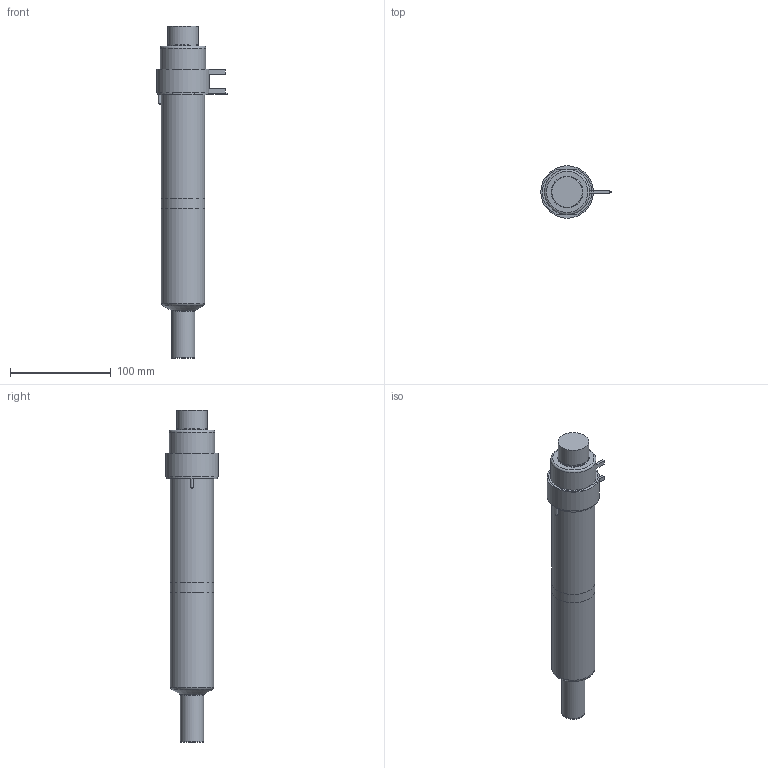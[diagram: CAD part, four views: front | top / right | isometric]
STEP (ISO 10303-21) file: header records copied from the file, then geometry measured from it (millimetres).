
FILE_DESCRIPTION(/* description */ (''),/* implementation_level */ '2;1');
FILE_NAME(/* name */ 'SXTSL-SXISL-SXOSL27225_250C_b',/* time_stamp */ '2008-04-30T09:06:45+12:00',/* author */ (''),/* organization */ (''),/* preprocessor_version */ 'ST-DEVELOPER v9',/* originating_system */ 'UGS - NX 4.0',/* authorisation */ '');
FILE_SCHEMA (('CONFIG_CONTROL_DESIGN'));
Length unit declared in the file: millimetre
Products named in the file (1): SXTSL-SXISL-SXOSL27225_250C_b
Bounding box: 69.6 x 52 x 329.06 mm (x, y, z)
Volume: 774417.2 mm3; surface area: 90759.2 mm2
Topology: 7 solids, 7 shells, 92 faces, 181 edges, 117 vertices
Faces by surface type: plane 43, cylinder 28, torus 10, cone 10, bspline 1
Full cylindrical faces by diameter (mm): 1 x3, 2 x1, 2.5 x2, 12 x1, 22.61 x1, 23.01 x2, 27.5 x1, 30 x1, 30.4 x1, 38.1 x2, 43 x2, 45 x1, 50 x1, 52 x1
Entity records: 2377 total; most frequent: CARTESIAN_POINT 543, DIRECTION 384, ORIENTED_EDGE 278, AXIS2_PLACEMENT_3D 167, EDGE_LOOP 140, EDGE_CURVE 139, VERTEX_POINT 110, ADVANCED_FACE 92
